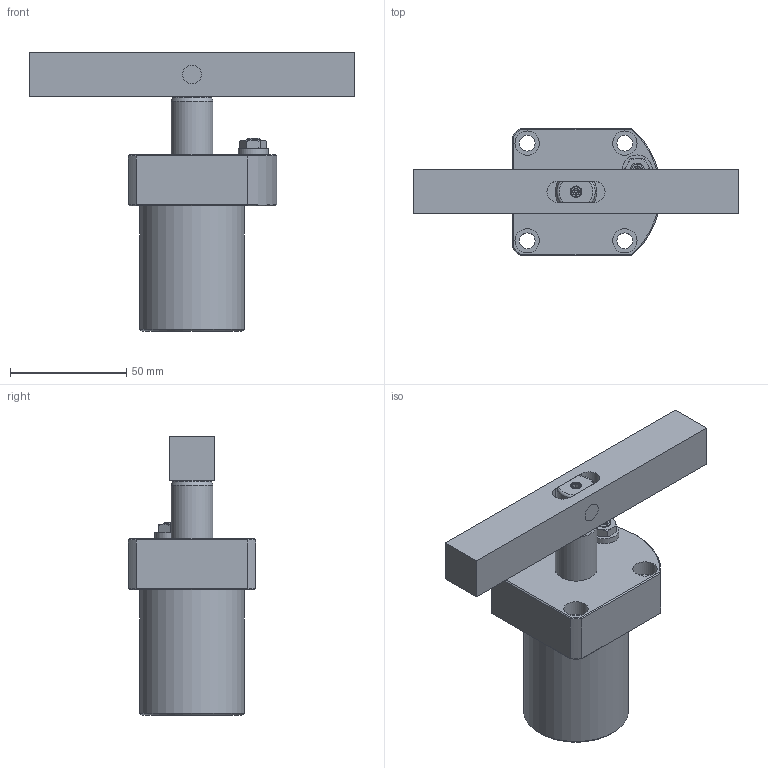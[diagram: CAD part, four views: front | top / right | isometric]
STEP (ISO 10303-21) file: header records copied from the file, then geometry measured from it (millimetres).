
FILE_DESCRIPTION(/* description */ ('Unknown'),/* implementation_level */ '2;1');
FILE_NAME(/* name */ 'HSC-FCM25D-B',/* time_stamp */ '2019-05-23T08:25:40+08:00',/* author */ ('Unknown'),/* organization */ ('Unknown'),/* preprocessor_version */ 'ST-DEVELOPER v16.7',/* originating_system */ 'DEX',/* authorisation */ $);
FILE_SCHEMA (('AUTOMOTIVE_DESIGN {1 0 10303 214 3 1 1}'));
Length unit declared in the file: millimetre
Products named in the file (5): HSC-FCM25D-B; HSC-FCM25D-CYLINDER; HSC-2502-D-AXLE CENTRE; HSC-2502-D-FIXED PIN; HSC-25D-B
Assembly tree (4 placements, depth 2):
  HSC-FCM25D-B
    HSC-FCM25D-CYLINDER
    HSC-2502-D-AXLE CENTRE
    HSC-2502-D-FIXED PIN
    HSC-25D-B
Bounding box: 140 x 55 x 120 mm (x, y, z)
Volume: 198563.4 mm3; surface area: 44327.2 mm2
Topology: 4 solids, 4 shells, 146 faces, 310 edges, 194 vertices
Faces by surface type: plane 61, cylinder 32, cone 25, bspline 24, torus 4
Full cylindrical faces by diameter (mm): 2.5 x2, 4.1 x2, 6 x1, 6.8 x4, 8 x4, 9 x2, 10.5 x4, 13 x1, 18 x1, 18.001 x1, 24.601 x1, 25 x1, 45 x1
Entity records: 4007 total; most frequent: CARTESIAN_POINT 1117, DIRECTION 530, ORIENTED_EDGE 510, EDGE_CURVE 255, AXIS2_PLACEMENT_3D 230, EDGE_LOOP 224, FACE_BOUND 224, VERTEX_POINT 179
